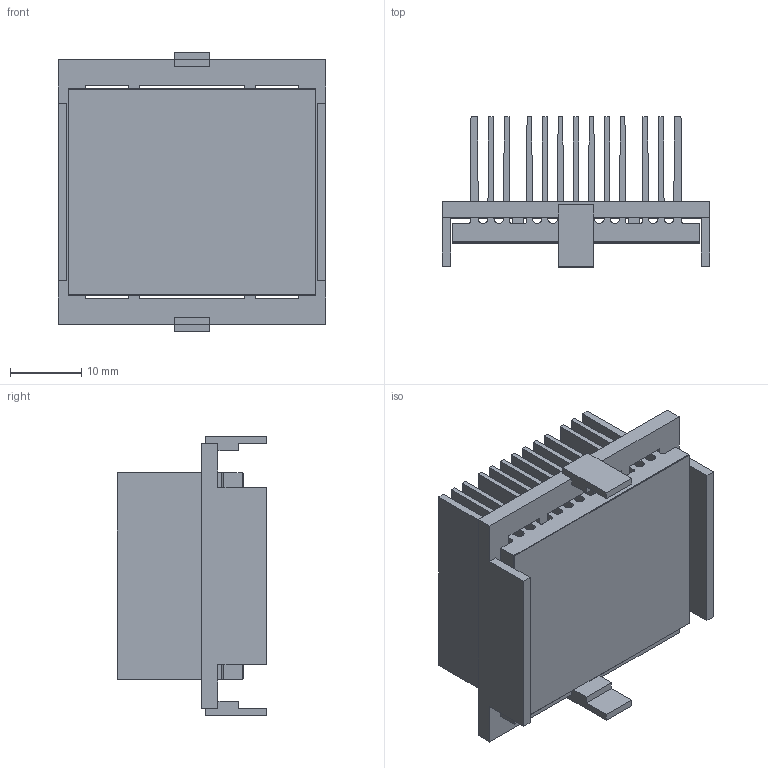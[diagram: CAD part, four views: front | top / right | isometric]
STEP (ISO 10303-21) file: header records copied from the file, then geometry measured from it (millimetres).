
FILE_DESCRIPTION (( 'STEP AP214' ), '1' );
FILE_NAME ('INH35001-18-2.6Y.STEP', '2023-02-17T22:48:15', ( '' ), ( '' ), 'SwSTEP 2.0', 'SolidWorks 2020', '' );
FILE_SCHEMA (( 'AUTOMOTIVE_DESIGN' ));
Length unit declared in the file: millimetre
Products named in the file (1): INH35001-18-2.6Y
Bounding box: 37.7 x 21.1 x 39.2 mm (x, y, z)
Volume: 9112.5 mm3; surface area: 18500.6 mm2
Topology: 3 solids, 3 shells, 148 faces, 426 edges, 284 vertices
Faces by surface type: plane 122, cylinder 26
Entity records: 6486 total; most frequent: CARTESIAN_POINT 859, ORIENTED_EDGE 852, DIRECTION 776, EDGE_CURVE 426, VECTOR 374, LINE 374, VERTEX_POINT 284, AXIS2_PLACEMENT_3D 201
